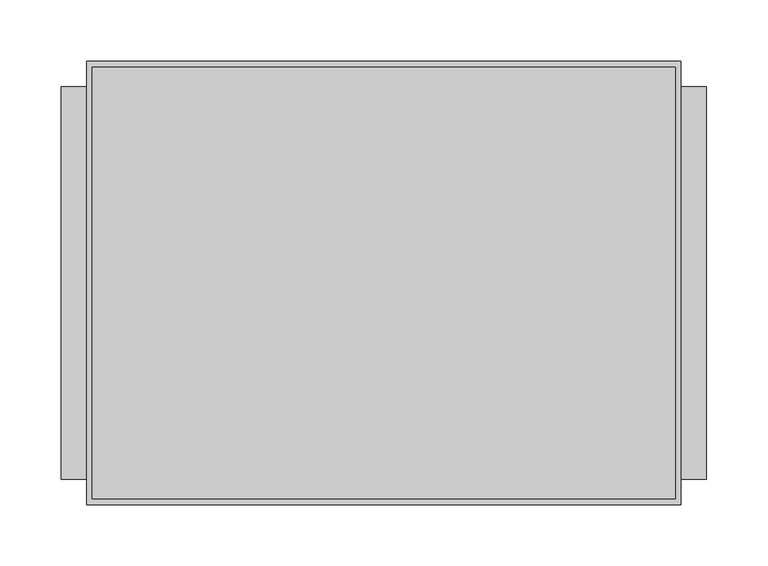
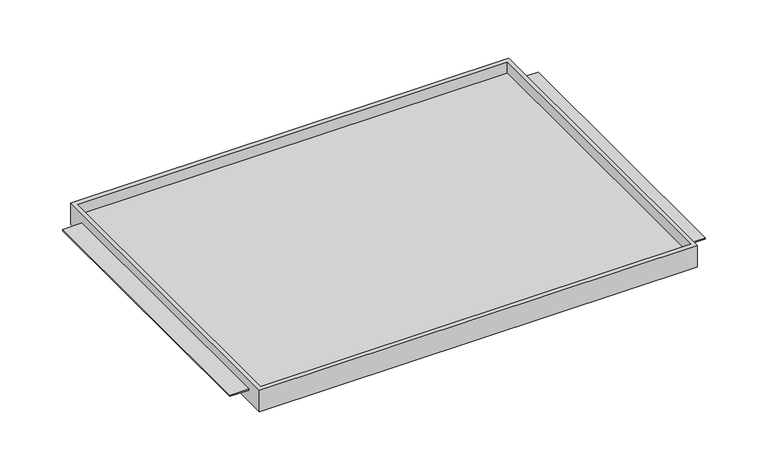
"""IFC4 building model written with IfcOpenShell, lengths in millimetres: furniture geometry."""

from ifc_helpers import new_model, si_unit, origin, place, context, project, spatial, faceted_brep, source, transform, mapped, element, save


def furniture_1862b397(model_context):
    return source(origin(), model_context, "Body", "Brep", [
        faceted_brep([(-242.7689646, -180.975, 1079.5), (242.7689646, -180.975, 1079.5), (242.7689646, -180.975, 1104.9), (-242.7689646, -180.975, 1104.9), (-242.7689646, 180.975, 1079.5), (-242.7689646, 180.975, 1104.9), (242.7689646, 180.975, 1104.9), (242.7689646, 180.975, 1079.5), (242.7689646, -160.3374879, 1093.8002), (242.7689646, 160.3374879, 1093.8002), (242.7689646, 160.3374879, 1092.2), (242.7689646, -160.3374879, 1092.2), (238.125, -176.2125, 1104.9), (-238.125, -176.2125, 1104.9), (-238.125, 175.91278, 1104.9), (238.125, 175.91278, 1104.9), (-242.7689646, 160.3374879, 1093.8002), (-242.7689646, -160.3374879, 1093.8002), (-242.7689646, -160.3374879, 1092.2), (-242.7689646, 160.3374879, 1092.2), (-238.125, -176.2125, 1092.2), (238.125, -176.2125, 1092.2), (238.125, 175.91278, 1092.2), (-238.125, 175.91278, 1092.2), (-263.525, 160.3374879, 1093.8002), (-263.525, -160.3374879, 1093.8002), (263.525, -160.3374879, 1093.8002), (263.525, 160.3374879, 1093.8002), (-263.525, -160.3374879, 1092.2), (-263.525, 160.3374879, 1092.2), (263.525, -160.3374879, 1092.2), (263.525, 160.3374879, 1092.2)], [[[0, 1, 2, 3]], [[4, 5, 6, 7]], [[1, 0, 4, 7]], [[2, 1, 7, 6], [8, 9, 10, 11]], [[3, 2, 6, 5], [12, 13, 14, 15]], [[0, 3, 5, 4], [16, 17, 18, 19]], [[20, 21, 22, 23]], [[21, 20, 13, 12]], [[22, 21, 12, 15]], [[23, 22, 15, 14]], [[20, 23, 14, 13]], [[16, 24, 25, 17]], [[26, 27, 9, 8]], [[18, 28, 29, 19]], [[30, 11, 10, 31]], [[24, 16, 19, 29]], [[25, 24, 29, 28]], [[17, 25, 28, 18]], [[27, 26, 30, 31]], [[9, 27, 31, 10]], [[26, 8, 11, 30]]]),
    ])


if __name__ == "__main__":
    model = new_model("IFC4")
    model_context = context("Model", 3, world=origin())
    ifc_project = project(units=[si_unit("LENGTHUNIT", "METRE", prefix="MILLI")], contexts=[model_context])
    site = spatial("IfcSite", under=ifc_project)
    building = spatial("IfcBuilding", under=site)
    placement = place(None, origin())
    furniture_shape = furniture_1862b397(model_context)
    element("IfcFurniture", 1, ObjectType="HermanMiller_CoStruc_CO203_CTrayShelf : 14\"D x 20\"W", at=placement, inside=building, context=model_context, shape_type="MappedRepresentation", body=[
        mapped(furniture_shape, transform((0.0, 0.0, 0.0), x_axis=(1.0, 0.0, 0.0), y_axis=(0.0, 1.0, 0.0), z_axis=(0.0, 0.0, 1.0))),
    ])
    save(model, "model.ifc")
